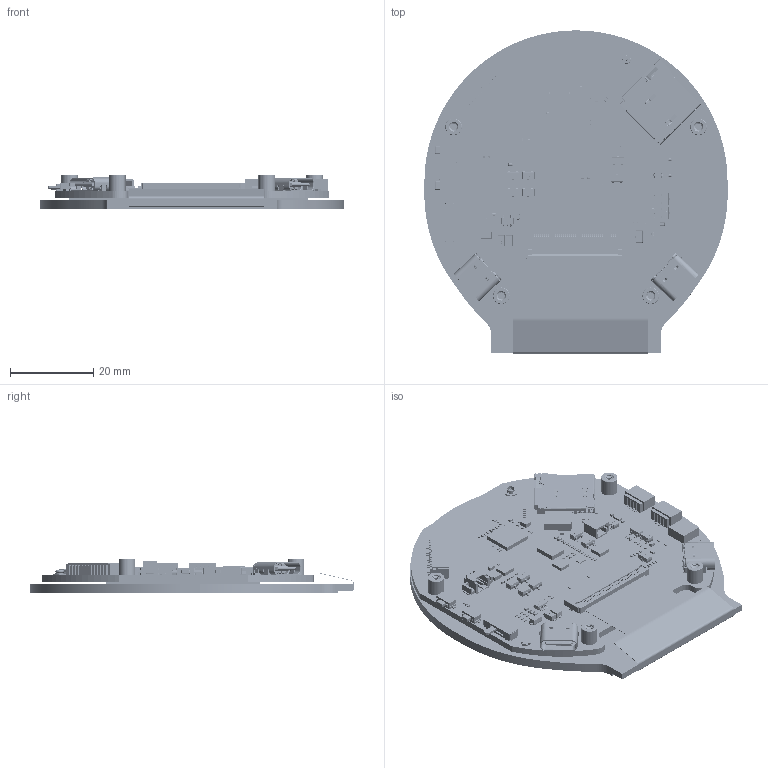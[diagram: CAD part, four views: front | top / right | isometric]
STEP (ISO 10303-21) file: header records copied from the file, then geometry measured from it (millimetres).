
FILE_DESCRIPTION((''),'2;1');
FILE_NAME('ESP32-S3-LCD-2_8C-20250611_ASM','2025-06-11T15:50:58',('xiaojisheng'),(''),'CREO PARAMETRIC BY PTC INC, 2021063','CREO PARAMETRIC BY PTC INC, 2021063','');
FILE_SCHEMA(('CONFIG_CONTROL_DESIGN','SHAPE_APPEARANCE_LAYERS_GROUPS'));
Products named in the file (258): _X2_5B9E4F53_X0_1-3537; _X2_5B9E4F53_X0_1-3528; _X2_5B9E4F53_X0_2-3529; _X2_5B9E4F53_X0_3-3530; _X2_5B9E4F53_X0_4-3531; USER_LIBRARY-RES_0603-0201_ASM; R58_ASM; R1_ASM; R41_ASM; R30_ASM; FPC0_5_2H-W__1_2_30034_1; 7_1_2_3_4_5_6_7_8_0037_1; 6_1_2_3_4_5_6_7_8_0028_1; FPC0_5_2H-S-W-40P-30491_AF0_ASM_ASM; FPC0_5_2H-S-W-40P-6314_AF0_ASM__ASM; FPC0_5_2H-S-W-40P_ASM_1_ASM_ASM; FPC0_5_2H-S-W-40P_ASM; J7_ASM; SOT-23; Q4_ASM; R52_ASM; R53_ASM; R57_ASM; SOD523; D7_ASM; Q5_ASM; R54_ASM; R55_ASM; EXTRUDED; 89451792_ASM; U1_ASM; EXTRUDED_1; 89452560_ASM; Y2_ASM; EXTRUDED_2; 89454992_ASM; CYLINDER; 93979136_ASM; U8_ASM; 89456400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
Assembly tree (444 placements, depth 9):
  ESP32-S3-LCD-2_8C-20250611_ASM
    PCB_ASM
      BOARD_ASM
        _X2_5B9E4F53_X0_1-3537
        R58_ASM
          USER_LIBRARY-RES_0603-0201_ASM
            _X2_5B9E4F53_X0_1-3528
            _X2_5B9E4F53_X0_2-3529
            _X2_5B9E4F53_X0_3-3530
            _X2_5B9E4F53_X0_4-3531
        R1_ASM
          USER_LIBRARY-RES_0603-0201_ASM
            _X2_5B9E4F53_X0_1-3528
            _X2_5B9E4F53_X0_2-3529
            _X2_5B9E4F53_X0_3-3530
            _X2_5B9E4F53_X0_4-3531
        R41_ASM
          USER_LIBRARY-RES_0603-0201_ASM
            _X2_5B9E4F53_X0_1-3528
            _X2_5B9E4F53_X0_2-3529
            _X2_5B9E4F53_X0_3-3530
            _X2_5B9E4F53_X0_4-3531
        R30_ASM
          USER_LIBRARY-RES_0603-0201_ASM
            _X2_5B9E4F53_X0_1-3528
            _X2_5B9E4F53_X0_2-3529
            _X2_5B9E4F53_X0_3-3530
            _X2_5B9E4F53_X0_4-3531
        J7_ASM
          FPC0_5_2H-S-W-40P_ASM
            FPC0_5_2H-S-W-40P_ASM_1_ASM_ASM
              FPC0_5_2H-S-W-40P-6314_AF0_ASM__ASM
                FPC0_5_2H-W__1_2_30034_1  x40
                FPC0_5_2H-S-W-40P-30491_AF0_ASM_ASM
                  7_1_2_3_4_5_6_7_8_0037_1
                  6_1_2_3_4_5_6_7_8_0028_1
        Q4_ASM
          SOT-23
        R52_ASM
          USER_LIBRARY-RES_0603-0201_ASM
            _X2_5B9E4F53_X0_1-3528
            _X2_5B9E4F53_X0_2-3529
            _X2_5B9E4F53_X0_3-3530
            _X2_5B9E4F53_X0_4-3531
        R53_ASM
          USER_LIBRARY-RES_0603-0201_ASM
            _X2_5B9E4F53_X0_1-3528
            _X2_5B9E4F53_X0_2-3529
            _X2_5B9E4F53_X0_3-3530
            _X2_5B9E4F53_X0_4-3531
        R57_ASM
          USER_LIBRARY-RES_0603-0201_ASM
            _X2_5B9E4F53_X0_1-3528
            _X2_5B9E4F53_X0_2-3529
            _X2_5B9E4F53_X0_3-3530
            _X2_5B9E4F53_X0_4-3531
        D7_ASM
          SOD523
        Q5_ASM
          SOT-23
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Bounding box: 73 x 77.84 x 8.25 mm (x, y, z)
Volume: 18482.4 mm3; surface area: 30602.4 mm2
Topology: 501 solids, 536 shells, 27403 faces, 73245 edges, 47771 vertices
Faces by surface type: plane 18489, extrusion 4924, cylinder 3273, sphere 440, cone 141, bspline 74, torus 62
Entity records: 393450 total; most frequent: CARTESIAN_POINT 82401, ORIENTED_EDGE 48950, DIRECTION 44162, EDGE_CURVE 24488, PRESENTATION_STYLE_ASSIGNMENT 21542, VECTOR 20614, STYLED_ITEM 20331, LINE 20001
